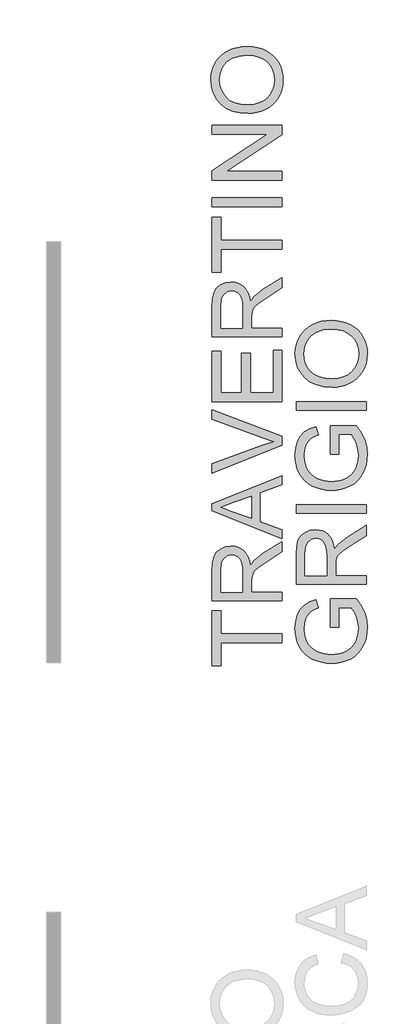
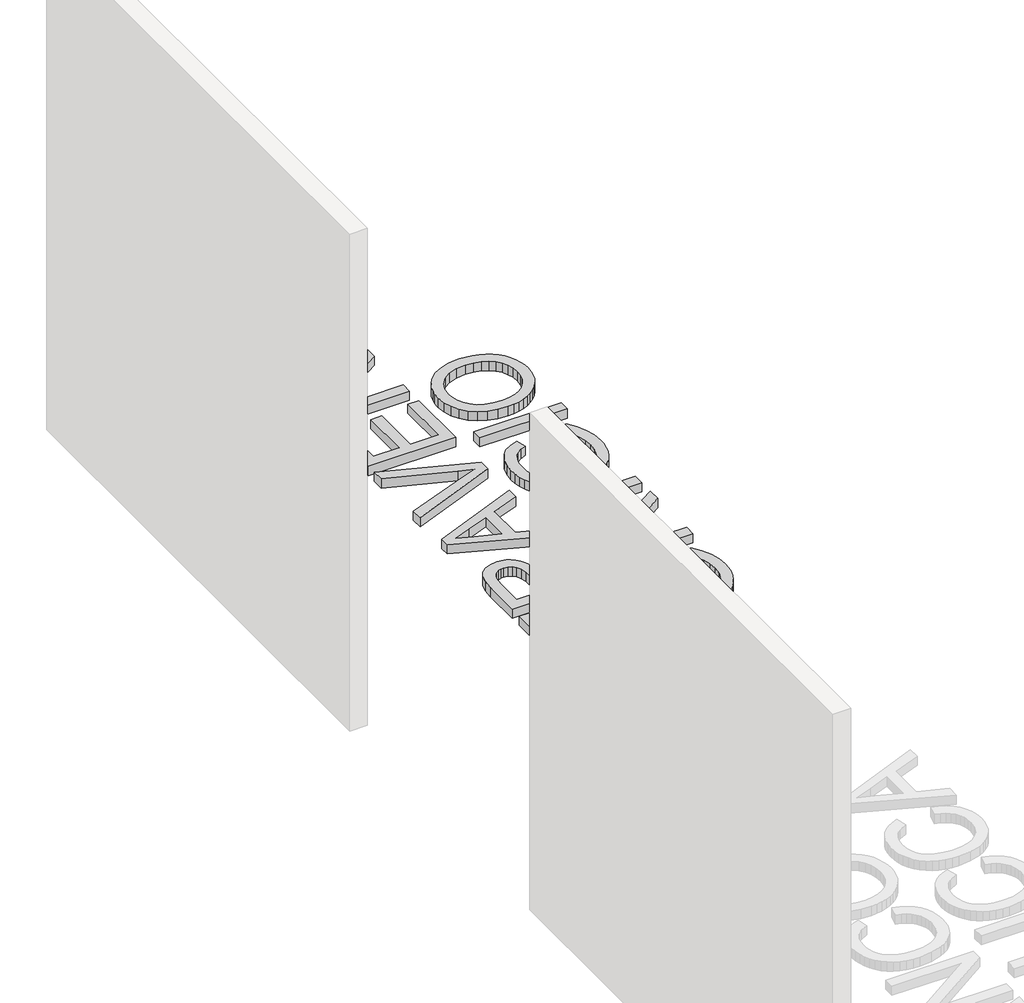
# One storey, part 2 of 4: 1 proxy.
"""IFC4 building model written with IfcOpenShell, lengths in millimetres."""

from ifc_helpers import new_model, si_unit, origin, origin_with_axes, place, context, project, spatial, polyline, outline, extrude, element, save

model = new_model("IFC4")

# Units and contexts
model_context = context("Model", 3, world=origin())
ifc_project = project(units=[si_unit("LENGTHUNIT", "METRE", prefix="MILLI")], contexts=[model_context])

# Site, building, storey
site = spatial("IfcSite", under=ifc_project)
building = spatial("IfcBuilding", under=site)
storey = spatial("IfcBuildingStorey", under=building, Name="PORTOBELLO - SHOWROOM", Elevation=0.0)

# Proxy
placement = place(None, origin())
element("IfcBuildingElementProxy", 1, Name="450mm Arial", ObjectType="450mm Arial", at=placement, inside=storey, context=model_context, shape_type="SweptSolid", body=[
    extrude(outline(polyline([(101934.3714609, 7216.7036031), (101540.9223359, 7216.7036031), (101540.9223359, 7069.1601812), (101484.7153181, 7069.1601812), (101484.7153181, 7420.4540428), (101540.9223359, 7420.4540428), (101540.9223359, 7272.9106209), (101934.3714609, 7272.9106209), (101934.3714609, 7216.7036031)])), origin_with_axes(), (0.0, 0.0, 1.0), 50.0),
    extrude(outline(polyline([(101934.3714609, 7483.6869379), (101484.7153181, 7483.6869379), (101484.7153181, 7677.4474584), (101487.7479721, 7729.5240289), (101496.8459342, 7767.4116207), (101513.642172, 7795.1034572), (101539.7696529, 7816.5927614), (101572.1682782, 7830.3837899), (101607.7779489, 7834.9807994), (101630.8727759, 7833.0768141), (101652.0739093, 7827.3648583), (101671.3813493, 7817.8449319), (101688.7950958, 7804.5170349), (101703.7593909, 7787.2096371), (101715.7184769, 7765.7512084), (101724.6723536, 7740.1417486), (101730.6210212, 7710.3812579), (101754.6626948, 7742.3270434), (101812.5164026, 7787.8854661), (101934.3714609, 7862.8647497), (101934.3714609, 7797.5460473), (101841.1688082, 7739.0336635), (101779.4728238, 7696.7686208), (101761.4827358, 7681.0564539), (101750.3264112, 7667.0733115), (101739.6229264, 7640.3420443), (101737.6468984, 7607.7375827), (101737.6468984, 7539.8939557), (101934.3714609, 7539.8939557), (101934.3714609, 7483.6869379)]), holes=[polyline([(101681.4398805, 7539.8939557), (101681.4398805, 7665.7010699), (101679.4501302, 7701.8321924), (101673.480879, 7729.8670893), (101663.134177, 7750.9721658), (101648.012074, 7766.3138274), (101629.7200929, 7775.658793), (101609.8637562, 7778.7737816), (101595.489525, 7777.28833), (101582.4463681, 7772.8319753), (101560.3532776, 7755.0065563), (101551.8522406, 7741.3973497), (101545.7800713, 7724.3369555), (101540.9223359, 7679.8626037), (101540.9223359, 7539.8939557), (101681.4398805, 7539.8939557)])]), origin_with_axes(), (0.0, 0.0, 1.0), 50.0),
    extrude(outline(polyline([(101934.3714609, 7880.9783394), (101484.7153181, 8060.4675468), (101484.7153181, 8108.3313355), (101934.3714609, 8287.8205429), (101934.3714609, 8228.4299244), (101793.8539162, 8176.9434178), (101793.8539162, 7991.7456852), (101934.3714609, 7940.3689579), (101934.3714609, 7880.9783394)]), holes=[polyline([(101737.6468984, 8012.3841995), (101737.6468984, 8156.4146828), (101627.0991113, 8115.9061094), (101540.9223359, 8084.3994412), (101617.4385301, 8056.4057116), (101737.6468984, 8012.3841995)])]), origin_with_axes(), (0.0, 0.0, 1.0), 50.0),
    extrude(outline(polyline([(101934.3714609, 8480.7028287), (101484.7153181, 8301.762518), (101484.7153181, 8361.9215918), (101808.674126, 8481.6908427), (101881.6773816, 8505.952075), (101808.674126, 8529.8839694), (101484.7153181, 8649.9825583), (101484.7153181, 8710.1416321), (101934.3714609, 8538.7760952), (101934.3714609, 8480.7028287)])), origin_with_axes(), (0.0, 0.0, 1.0), 50.0),
    extrude(outline(polyline([(101934.3714609, 8762.396594), (101484.7153181, 8762.396594), (101484.7153181, 9085.5869466), (101540.9223359, 9085.5869466), (101540.9223359, 8818.6036118), (101674.4140033, 8818.6036118), (101674.4140033, 9071.5351922), (101730.6210212, 9071.5351922), (101730.6210212, 8818.6036118), (101878.164443, 8818.6036118), (101878.164443, 9092.6128239), (101934.3714609, 9092.6128239), (101934.3714609, 8762.396594)])), origin_with_axes(), (0.0, 0.0, 1.0), 50.0),
    extrude(outline(polyline([(101934.3714609, 9176.9233507), (101484.7153181, 9176.9233507), (101484.7153181, 9370.6838712), (101487.7479721, 9422.7604417), (101496.8459342, 9460.6480335), (101513.642172, 9488.33987), (101539.7696529, 9509.8291742), (101572.1682782, 9523.6202027), (101607.7779489, 9528.2172122), (101630.8727759, 9526.3132269), (101652.0739093, 9520.6012711), (101671.3813493, 9511.0813447), (101688.7950958, 9497.7534477), (101703.7593909, 9480.4460499), (101715.7184769, 9458.9876212), (101724.6723536, 9433.3781614), (101730.6210212, 9403.6176707), (101754.6626948, 9435.5634562), (101812.5164026, 9481.1218789), (101934.3714609, 9556.1011625), (101934.3714609, 9490.7824601), (101841.1688082, 9432.2700763), (101779.4728238, 9390.0050336), (101761.4827358, 9374.2928667), (101750.3264112, 9360.3097243), (101739.6229264, 9333.5784571), (101737.6468984, 9300.9739955), (101737.6468984, 9233.1303685), (101934.3714609, 9233.1303685), (101934.3714609, 9176.9233507)]), holes=[polyline([(101681.4398805, 9233.1303685), (101681.4398805, 9358.9374827), (101679.4501302, 9395.0686052), (101673.480879, 9423.1035021), (101663.134177, 9444.2085786), (101648.012074, 9459.5502402), (101629.7200929, 9468.8952058), (101609.8637562, 9472.0101944), (101595.489525, 9470.5247428), (101582.4463681, 9466.068388), (101560.3532776, 9448.2429691), (101551.8522406, 9434.6337625), (101545.7800713, 9417.5733683), (101540.9223359, 9373.0990165), (101540.9223359, 9233.1303685), (101681.4398805, 9233.1303685)])]), origin_with_axes(), (0.0, 0.0, 1.0), 50.0),
    extrude(outline(polyline([(101934.3714609, 9738.9935292), (101540.9223359, 9738.9935292), (101540.9223359, 9591.4501073), (101484.7153181, 9591.4501073), (101484.7153181, 9942.7439689), (101540.9223359, 9942.7439689), (101540.9223359, 9795.200547), (101934.3714609, 9795.200547), (101934.3714609, 9738.9935292)])), origin_with_axes(), (0.0, 0.0, 1.0), 50.0),
    extrude(outline(polyline([(101934.3714609, 10013.0027412), (101484.7153181, 10013.0027412), (101484.7153181, 10069.2097591), (101934.3714609, 10069.2097591), (101934.3714609, 10013.0027412)])), origin_with_axes(), (0.0, 0.0, 1.0), 50.0),
    extrude(outline(polyline([(101934.3714609, 10181.6237948), (101484.7153181, 10181.6237948), (101484.7153181, 10241.7828686), (101840.9492496, 10476.7106385), (101484.7153181, 10476.7106385), (101484.7153181, 10532.9176563), (101934.3714609, 10532.9176563), (101934.3714609, 10472.7585825), (101578.02775, 10237.8308126), (101934.3714609, 10237.8308126), (101934.3714609, 10181.6237948)])), origin_with_axes(), (0.0, 0.0, 1.0), 50.0),
    extrude(outline(polyline([(101715.4714734, 10610.2023059), (101662.7293657, 10613.9485256), (101616.0388437, 10625.1871847), (101575.3999073, 10643.9182831), (101540.8125566, 10670.141821), (101513.1961934, 10702.2865816), (101493.4702198, 10738.7813482), (101481.6346356, 10779.6261208), (101477.6894408, 10824.8208994), (101479.541967, 10855.0719665), (101485.0995457, 10883.7998454), (101494.3621768, 10911.0045361), (101507.3298604, 10936.6860385), (101523.6115075, 10960.1239258), (101542.8160294, 10980.5977712), (101564.9434259, 10998.1075746), (101589.9936972, 11012.6533361), (101617.3973629, 11024.084109), (101646.5849427, 11032.2489468), (101677.5564367, 11037.1478494), (101710.3118448, 11038.780817), (101743.499509, 11037.0620843), (101774.8895367, 11031.9058864), (101804.4819278, 11023.312223), (101832.2766824, 11011.2810944), (101857.5396511, 10996.0972406), (101879.5366847, 10978.0454017), (101898.2677831, 10957.1255778), (101913.7329465, 10933.3377689), (101925.8361178, 10907.6185298), (101934.4812402, 10880.9044155), (101939.6683136, 10853.1954261), (101941.3973381, 10824.4915614), (101939.4864916, 10793.7121813), (101933.7539521, 10764.606936), (101924.1997197, 10737.1758255), (101910.8237942, 10711.4188498), (101894.144197, 10688.0084073), (101874.6789492, 10667.6168964), (101852.4280509, 10650.2443171), (101827.3915021, 10635.8906695), (101800.5744697, 10624.6520104), (101772.9821208, 10616.6243968), (101744.6144554, 10611.8078286), (101715.4714734, 10610.2023059)]), holes=[polyline([(101716.02037, 10666.4093237), (101753.283592, 10669.2189885), (101786.3614769, 10677.6479828), (101815.2540247, 10691.6963067), (101839.9612356, 10711.3639601), (101859.7489601, 10735.2718402), (101873.8830491, 10762.0408441), (101882.3635025, 10791.6709719), (101885.1903203, 10824.1622235), (101882.3360576, 10857.2092329), (101873.7732698, 10887.1892823), (101859.5019566, 10914.1023716), (101839.5221182, 10937.9485008), (101814.2934556, 10957.4720688), (101784.2756695, 10971.4174746), (101749.4687602, 10979.784718), (101709.8727275, 10982.5737992), (101660.1152453, 10977.7983982), (101617.1091921, 10963.4721954), (101581.9386387, 10939.965696), (101555.687656, 10907.6494052), (101539.344258, 10868.6640201), (101533.8964587, 10825.1502374), (101536.5208708, 10793.7876546), (101544.3941073, 10764.6892705), (101557.516168, 10737.8550851), (101575.8870531, 10713.2850984), (101600.3918583, 10692.776947), (101631.9156795, 10678.1282674), (101670.4585168, 10669.3390597), (101716.02037, 10666.4093237)])]), origin_with_axes(), (0.0, 0.0, 1.0), 50.0),
    extrude(outline(polyline([(102299.1566133, 7315.0658843), (102242.9495954, 7315.0658843), (102242.9495954, 7497.7386923), (102411.0217523, 7497.7386923), (102441.8971894, 7453.346675), (102464.0451695, 7407.5549713), (102477.3833583, 7360.4733604), (102481.8294213, 7312.2116217), (102480.0626602, 7279.9262063), (102474.7623768, 7249.157118), (102465.9285712, 7219.9043567), (102453.5612434, 7192.1679224), (102437.8456459, 7166.8432028), (102418.9670314, 7144.8255856), (102396.9254, 7126.1150707), (102371.7207515, 7110.7116583), (102344.1592781, 7098.6805296), (102315.0471715, 7090.0868663), (102284.3844319, 7084.9306683), (102252.1710593, 7083.2119357), (102219.954256, 7084.9238071), (102188.8421073, 7090.0594215), (102158.8346131, 7098.6187787), (102129.9317734, 7110.6018789), (102103.4029117, 7125.7960246), (102080.5173517, 7143.9885182), (102061.2750932, 7165.1793598), (102045.6761363, 7189.3685495), (102033.6209934, 7216.0312047), (102025.0101771, 7244.642443), (102019.8436873, 7275.2022645), (102018.121524, 7307.7106691), (102022.1147472, 7354.0101022), (102034.0944168, 7395.6439138), (102053.1960205, 7430.7046879), (102078.5550461, 7457.2850086), (102111.3927887, 7476.9492314), (102152.9305434, 7491.2617117), (102167.5311945, 7439.4458672), (102137.9044974, 7427.8778701), (102115.5506809, 7413.8123932), (102098.6995535, 7395.2047965), (102085.5809234, 7370.0104398), (102077.1416372, 7339.9720702), (102074.3285419, 7306.8324344), (102077.3611959, 7268.0391631), (102086.459158, 7234.8720825), (102100.4834676, 7207.4546944), (102118.2951642, 7185.9105005), (102138.9748458, 7169.3749887), (102161.6031106, 7156.9836466), (102204.0328223, 7143.8101268), (102249.8656933, 7139.4189535), (102303.6163986, 7144.7020839), (102326.9204924, 7151.3059968), (102347.8437469, 7160.5514749), (102366.3072582, 7172.318447), (102382.2321226, 7186.486842), (102395.6183398, 7203.0566599), (102406.46591, 7222.0279006), (102420.8332801, 7263.620545), (102425.6224034, 7307.7106691), (102422.0134079, 7346.6411646), (102411.1864213, 7384.611091), (102396.2701546, 7417.5860577), (102380.3933188, 7441.5316745), (102299.1566133, 7441.5316745), (102299.1566133, 7315.0658843)])), origin_with_axes(), (0.0, 0.0, 1.0), 50.0),
    extrude(outline(polyline([(102474.8035441, 7589.0750963), (102025.1474012, 7589.0750963), (102025.1474012, 7782.8356169), (102028.1800553, 7834.9121874), (102037.2780174, 7872.7997792), (102054.0742551, 7900.4916157), (102080.2017361, 7921.9809198), (102112.6003614, 7935.7719484), (102148.2100321, 7940.3689579), (102171.304859, 7938.4649726), (102192.5059925, 7932.7530168), (102211.8134324, 7923.2330903), (102229.2271789, 7909.9051933), (102244.1914741, 7892.5977956), (102256.1505601, 7871.1393668), (102265.1044368, 7845.5299071), (102271.0531043, 7815.7694164), (102295.094778, 7847.7152019), (102352.9484858, 7893.2736246), (102474.8035441, 7968.2529082), (102474.8035441, 7902.9342058), (102381.6008914, 7844.421822), (102319.904907, 7802.1567792), (102301.914819, 7786.4446124), (102290.7584944, 7772.46147), (102280.0550095, 7745.7302027), (102278.0789816, 7713.1257412), (102278.0789816, 7645.2821142), (102474.8035441, 7645.2821142), (102474.8035441, 7589.0750963)]), holes=[polyline([(102221.8719637, 7645.2821142), (102221.8719637, 7771.0892284), (102219.8822133, 7807.2203509), (102213.9129622, 7835.2552478), (102203.5662601, 7856.3603243), (102188.4441572, 7871.7019859), (102170.1521761, 7881.0469515), (102150.2958394, 7884.1619401), (102135.9216082, 7882.6764885), (102122.8784513, 7878.2201337), (102100.7853608, 7860.3947147), (102092.2843238, 7846.7855082), (102086.2121545, 7829.7251139), (102081.3544191, 7785.2507622), (102081.3544191, 7645.2821142), (102221.8719637, 7645.2821142)])]), origin_with_axes(), (0.0, 0.0, 1.0), 50.0),
    extrude(outline(polyline([(102474.8035441, 8045.7571164), (102025.1474012, 8045.7571164), (102025.1474012, 8101.9641342), (102474.8035441, 8101.9641342), (102474.8035441, 8045.7571164)])), origin_with_axes(), (0.0, 0.0, 1.0), 50.0),
    extrude(outline(polyline([(102299.1566133, 8425.1544869), (102242.9495954, 8425.1544869), (102242.9495954, 8607.8272949), (102411.0217523, 8607.8272949), (102441.8971894, 8563.4352776), (102464.0451695, 8517.6435739), (102477.3833583, 8470.561963), (102481.8294213, 8422.3002243), (102480.0626602, 8390.0148089), (102474.7623768, 8359.2457206), (102465.9285712, 8329.9929593), (102453.5612434, 8302.256525), (102437.8456459, 8276.9318054), (102418.9670314, 8254.9141882), (102396.9254, 8236.2036733), (102371.7207515, 8220.8002608), (102344.1592781, 8208.7691322), (102315.0471715, 8200.1754689), (102284.3844319, 8195.0192709), (102252.1710593, 8193.3005382), (102219.954256, 8195.0124097), (102188.8421073, 8200.1480241), (102158.8346131, 8208.7073813), (102129.9317734, 8220.6904815), (102103.4029117, 8235.8846271), (102080.5173517, 8254.0771208), (102061.2750932, 8275.2679624), (102045.6761363, 8299.457152), (102033.6209934, 8326.1198072), (102025.0101771, 8354.7310456), (102019.8436873, 8385.290867), (102018.121524, 8417.7992717), (102022.1147472, 8464.0987048), (102034.0944168, 8505.7325164), (102053.1960205, 8540.7932905), (102078.5550461, 8567.3736112), (102111.3927887, 8587.037834), (102152.9305434, 8601.3503143), (102167.5311945, 8549.5344697), (102137.9044974, 8537.9664727), (102115.5506809, 8523.9009958), (102098.6995535, 8505.2933991), (102085.5809234, 8480.0990424), (102077.1416372, 8450.0606728), (102074.3285419, 8416.921037), (102077.3611959, 8378.1277656), (102086.459158, 8344.960685), (102100.4834676, 8317.5432969), (102118.2951642, 8295.9991031), (102138.9748458, 8279.4635912), (102161.6031106, 8267.0722492), (102204.0328223, 8253.8987294), (102249.8656933, 8249.5075561), (102303.6163986, 8254.7906864), (102326.9204924, 8261.3945994), (102347.8437469, 8270.6400775), (102366.3072582, 8282.4070496), (102382.2321226, 8296.5754446), (102395.6183398, 8313.1452625), (102406.46591, 8332.1165032), (102420.8332801, 8373.7091475), (102425.6224034, 8417.7992717), (102422.0134079, 8456.7297672), (102411.1864213, 8494.6996935), (102396.2701546, 8527.6746603), (102380.3933188, 8551.620277), (102299.1566133, 8551.620277), (102299.1566133, 8425.1544869)])), origin_with_axes(), (0.0, 0.0, 1.0), 50.0),
    extrude(outline(polyline([(102474.8035441, 8706.1895761), (102025.1474012, 8706.1895761), (102025.1474012, 8762.396594), (102474.8035441, 8762.396594), (102474.8035441, 8706.1895761)])), origin_with_axes(), (0.0, 0.0, 1.0), 50.0),
    extrude(outline(polyline([(102255.9035566, 8853.732998), (102203.1614489, 8857.4792177), (102156.4709268, 8868.7178768), (102115.8319905, 8887.4489753), (102081.2446398, 8913.6725131), (102053.6282766, 8945.8172737), (102033.9023029, 8982.3120403), (102022.0667187, 9023.1568129), (102018.121524, 9068.3515916), (102019.9740502, 9098.6026587), (102025.5316289, 9127.3305375), (102034.79426, 9154.5352282), (102047.7619436, 9180.2167306), (102064.0435907, 9203.6546179), (102083.2481126, 9224.1284633), (102105.3755091, 9241.6382667), (102130.4257804, 9256.1840282), (102157.8294461, 9267.6148011), (102187.0170259, 9275.7796389), (102217.9885199, 9280.6785416), (102250.743928, 9282.3115091), (102283.9315922, 9280.5927765), (102315.3216199, 9275.4365785), (102344.914011, 9266.8429152), (102372.7087655, 9254.8117865), (102397.9717342, 9239.6279327), (102419.9687678, 9221.5760938), (102438.6998663, 9200.6562699), (102454.1650297, 9176.868461), (102466.268201, 9151.1492219), (102474.9133234, 9124.4351077), (102480.1003968, 9096.7261182), (102481.8294213, 9068.0222536), (102479.9185748, 9037.2428734), (102474.1860353, 9008.1376281), (102464.6318028, 8980.7065176), (102451.2558774, 8954.9495419), (102434.5762802, 8931.5390994), (102415.1110324, 8911.1475885), (102392.8601341, 8893.7750093), (102367.8235853, 8879.4213616), (102341.0065529, 8868.1827025), (102313.414204, 8860.1550889), (102285.0465385, 8855.3385207), (102255.9035566, 8853.732998)]), holes=[polyline([(102256.4524532, 8909.9400159), (102293.7156751, 8912.7496806), (102326.79356, 8921.1786749), (102355.6861079, 8935.2269988), (102380.3933188, 8954.8946522), (102400.1810433, 8978.8025323), (102414.3151323, 9005.5715362), (102422.7955856, 9035.201664), (102425.6224034, 9067.6929156), (102422.7681408, 9100.739925), (102414.2053529, 9130.7199744), (102399.9340398, 9157.6330637), (102379.9542014, 9181.4791929), (102354.7255388, 9201.002761), (102324.7077527, 9214.9481667), (102289.9008434, 9223.3154101), (102250.3048106, 9226.1044913), (102200.5473285, 9221.3290903), (102157.5412753, 9207.0028876), (102122.3707219, 9183.4963881), (102096.1197392, 9151.1800974), (102079.7763412, 9112.1947122), (102074.3285419, 9068.6809296), (102076.952954, 9037.3183467), (102084.8261905, 9008.2199626), (102097.9482512, 8981.3857772), (102116.3191362, 8956.8157905), (102140.8239415, 8936.3076391), (102172.3477627, 8921.6589595), (102210.8905999, 8912.8697518), (102256.4524532, 8909.9400159)])]), origin_with_axes(), (0.0, 0.0, 1.0), 50.0),
])

save(model, "model.ifc")
